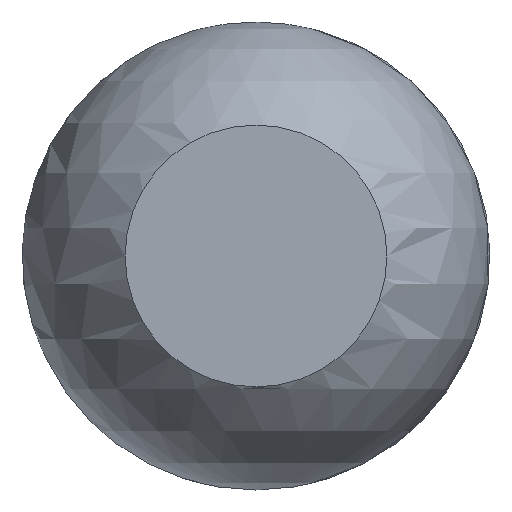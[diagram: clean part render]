
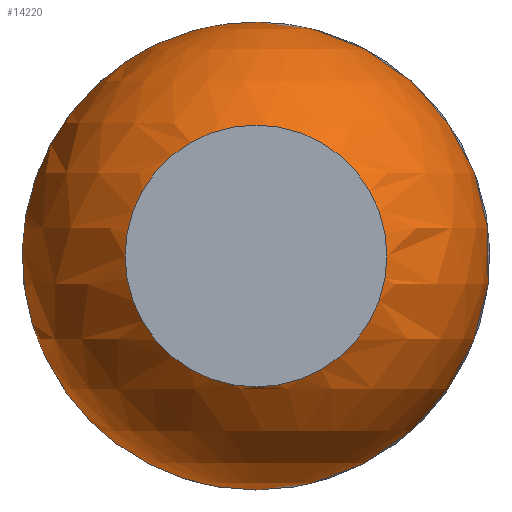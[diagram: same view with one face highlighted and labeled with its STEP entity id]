
A CAD part, left-side view. The second image highlights one B-rep face of the part: STEP entity #14220.
In plain terms, the highlighted spherical face has radius 18.326 mm.
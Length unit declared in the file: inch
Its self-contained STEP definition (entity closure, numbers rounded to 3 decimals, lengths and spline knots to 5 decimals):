
#42=SPHERICAL_SURFACE('',#15107,0.7215);
#194=FACE_BOUND('',#2584,.T.);
#195=FACE_BOUND('',#2585,.T.);
#2584=EDGE_LOOP('',(#13283));
#2585=EDGE_LOOP('',(#13284));
#4990=CIRCLE('',#15105,0.45167);
#4991=CIRCLE('',#15108,0.4038);
#7065=VERTEX_POINT('',#33204);
#7066=VERTEX_POINT('',#33208);
#9138=EDGE_CURVE('',#7065,#7065,#4990,.T.);
#9139=EDGE_CURVE('',#7066,#7066,#4991,.T.);
#13283=ORIENTED_EDGE('',*,*,#9139,.T.);
#13284=ORIENTED_EDGE('',*,*,#9138,.F.);
#14220=ADVANCED_FACE('',(#194,#195),#42,.T.);
#15105=AXIS2_PLACEMENT_3D('',#33205,#17806,#17807);
#15107=AXIS2_PLACEMENT_3D('',#33207,#17810,#17811);
#15108=AXIS2_PLACEMENT_3D('',#33209,#17812,#17813);
#17806=DIRECTION('center_axis',(1.,0.,0.));
#17807=DIRECTION('ref_axis',(0.,0.,-1.));
#17810=DIRECTION('center_axis',(0.,0.,1.));
#17811=DIRECTION('ref_axis',(1.,0.,0.));
#17812=DIRECTION('center_axis',(1.,0.,0.));
#17813=DIRECTION('ref_axis',(0.,0.,-1.));
#33204=CARTESIAN_POINT('',(-92.86011,-81.52687,0.));
#33205=CARTESIAN_POINT('Origin',(-92.86011,-81.97854,0.));
#33207=CARTESIAN_POINT('Origin',(-93.42274,-81.97854,0.));
#33208=CARTESIAN_POINT('',(-94.02066,-81.57473,0.));
#33209=CARTESIAN_POINT('Origin',(-94.02066,-81.97854,0.));
